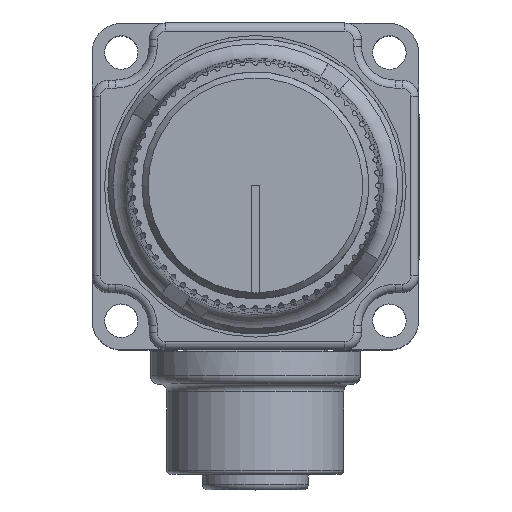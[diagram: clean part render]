
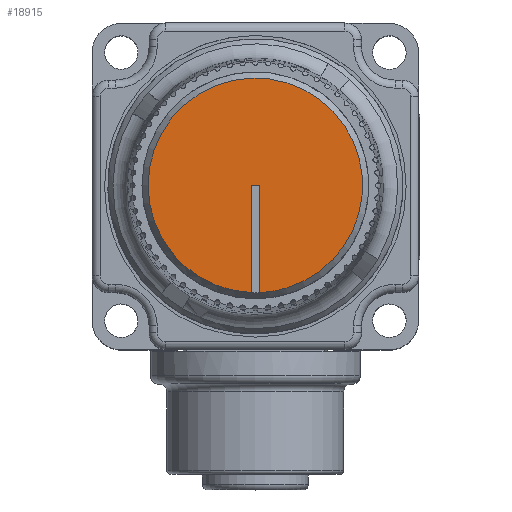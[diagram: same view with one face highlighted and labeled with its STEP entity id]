
A CAD part, top view. The second image highlights one B-rep face of the part: STEP entity #18915.
In plain terms, the highlighted planar face has unit normal (0, 0, 1).
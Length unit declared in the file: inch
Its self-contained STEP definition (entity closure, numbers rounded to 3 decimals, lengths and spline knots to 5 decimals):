
#947=PLANE('',#20548);
#1772=FACE_OUTER_BOUND('',#2872,.T.);
#2872=EDGE_LOOP('',(#14902,#14903,#14904,#14905,#14906));
#3749=CIRCLE('',#20549,0.4);
#3750=CIRCLE('',#20550,0.4);
#5275=LINE('',#32164,#6636);
#5276=LINE('',#32170,#6637);
#5277=LINE('',#32171,#6638);
#6636=VECTOR('',#24733,0.3937);
#6637=VECTOR('',#24738,0.3937);
#6638=VECTOR('',#24739,0.3937);
#8191=VERTEX_POINT('',#32162);
#8192=VERTEX_POINT('',#32163);
#8193=VERTEX_POINT('',#32165);
#8194=VERTEX_POINT('',#32167);
#8195=VERTEX_POINT('',#32169);
#10537=EDGE_CURVE('',#8191,#8192,#5275,.T.);
#10538=EDGE_CURVE('',#8192,#8193,#3749,.T.);
#10539=EDGE_CURVE('',#8193,#8194,#3750,.T.);
#10540=EDGE_CURVE('',#8194,#8195,#5276,.T.);
#10541=EDGE_CURVE('',#8195,#8191,#5277,.T.);
#14902=ORIENTED_EDGE('',*,*,#10537,.T.);
#14903=ORIENTED_EDGE('',*,*,#10538,.T.);
#14904=ORIENTED_EDGE('',*,*,#10539,.T.);
#14905=ORIENTED_EDGE('',*,*,#10540,.T.);
#14906=ORIENTED_EDGE('',*,*,#10541,.T.);
#18915=ADVANCED_FACE('',(#1772),#947,.T.);
#20548=AXIS2_PLACEMENT_3D('',#32161,#24731,#24732);
#20549=AXIS2_PLACEMENT_3D('',#32166,#24734,#24735);
#20550=AXIS2_PLACEMENT_3D('',#32168,#24736,#24737);
#24731=DIRECTION('center_axis',(0.,0.,1.));
#24732=DIRECTION('ref_axis',(1.,0.,0.));
#24733=DIRECTION('',(0.,-1.,0.));
#24734=DIRECTION('center_axis',(0.,0.,
1.));
#24735=DIRECTION('ref_axis',(0.325,0.946,0.));
#24736=DIRECTION('center_axis',(0.,0.,
1.));
#24737=DIRECTION('ref_axis',(0.325,0.946,0.));
#24738=DIRECTION('',(0.,1.,0.));
#24739=DIRECTION('',(1.,0.,0.));
#32161=CARTESIAN_POINT('Origin',(-0.44087,-0.25809,
1.82375));
#32162=CARTESIAN_POINT('',(-0.42587,0.14202,1.82375));
#32163=CARTESIAN_POINT('',(-0.42587,-0.2577,1.82375));
#32164=CARTESIAN_POINT('',(-0.42587,0.14202,1.82375));
#32165=CARTESIAN_POINT('',(-0.32669,-0.24134,1.82375));
#32166=CARTESIAN_POINT('Origin',(-0.44087,0.14202,1.82375));
#32167=CARTESIAN_POINT('',(-0.45587,-0.2577,1.82375));
#32168=CARTESIAN_POINT('Origin',(-0.44087,0.14202,1.82375));
#32169=CARTESIAN_POINT('',(-0.45587,0.14202,1.82375));
#32170=CARTESIAN_POINT('',(-0.45587,-0.2577,1.82375));
#32171=CARTESIAN_POINT('',(-0.45587,0.14202,1.82375));
